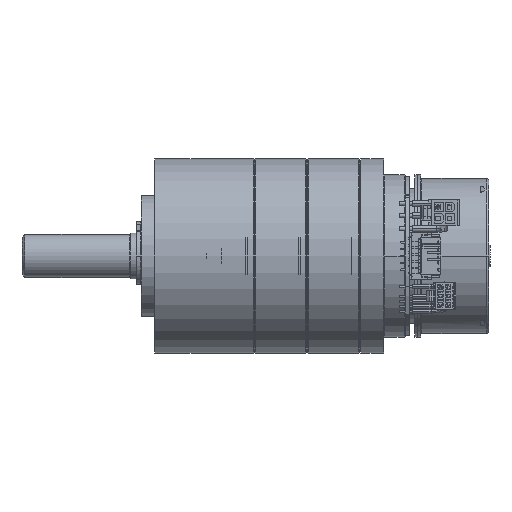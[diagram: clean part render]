
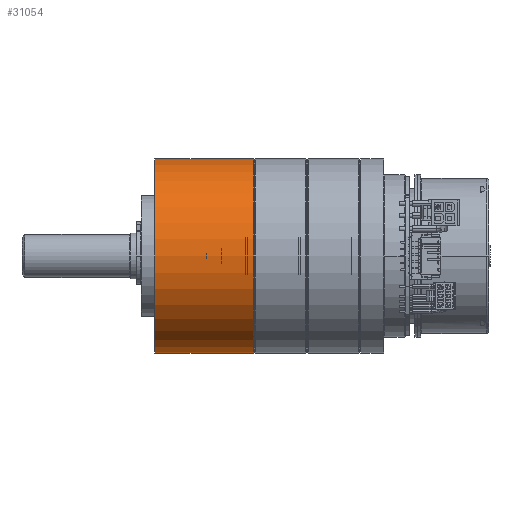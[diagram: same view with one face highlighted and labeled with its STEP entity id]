
A CAD part, front view. The second image highlights one B-rep face of the part: STEP entity #31054.
In plain terms, the highlighted cylindrical face has radius 36 mm (diameter 72 mm), a partial arc.
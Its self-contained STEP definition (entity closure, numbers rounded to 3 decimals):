
#1671 = EDGE_CURVE ( 'NONE', #48484, #43129, #30841, .T. ) ;
#2165 = VERTEX_POINT ( 'NONE', #111873 ) ;
#5742 = AXIS2_PLACEMENT_3D ( 'NONE', #95694, #75137, #58216 ) ;
#7003 = VERTEX_POINT ( 'NONE', #32561 ) ;
#8339 = FACE_OUTER_BOUND ( 'NONE', #102475, .T. ) ;
#17961 = CARTESIAN_POINT ( 'NONE',  ( -5.08, 0., 0. ) ) ;
#22089 = AXIS2_PLACEMENT_3D ( 'NONE', #17961, #64092, #119685 ) ;
#23118 = CIRCLE ( 'NONE', #5742, 36. ) ;
#27384 = CARTESIAN_POINT ( 'NONE',  ( -5.08, 0., -36. ) ) ;
#28552 = EDGE_CURVE ( 'NONE', #2165, #43129, #80279, .T. ) ;
#28958 = VECTOR ( 'NONE', #117188, 1000. ) ;
#29161 = LINE ( 'NONE', #27384, #41274 ) ;
#30841 = CIRCLE ( 'NONE', #98496, 36. ) ;
#31054 = ADVANCED_FACE ( 'NONE', ( #8339 ), #119111, .T. ) ;
#32561 = CARTESIAN_POINT ( 'NONE',  ( -3., 0., -36. ) ) ;
#33689 = CARTESIAN_POINT ( 'NONE',  ( 33.6, 0., 36. ) ) ;
#33698 = CARTESIAN_POINT ( 'NONE',  ( -5.08, 0., 36. ) ) ;
#41274 = VECTOR ( 'NONE', #92176, 1000. ) ;
#43129 = VERTEX_POINT ( 'NONE', #33689 ) ;
#48484 = VERTEX_POINT ( 'NONE', #70785 ) ;
#53735 = EDGE_CURVE ( 'NONE', #2165, #7003, #23118, .T. ) ;
#58216 = DIRECTION ( 'NONE',  ( 0., 0., -1. ) ) ;
#63057 = DIRECTION ( 'NONE',  ( 0., 0., -1. ) ) ;
#64092 = DIRECTION ( 'NONE',  ( 1., 0., 0. ) ) ;
#65052 = ORIENTED_EDGE ( 'NONE', *, *, #53735, .T. ) ;
#70785 = CARTESIAN_POINT ( 'NONE',  ( 33.6, 0., -36. ) ) ;
#70932 = DIRECTION ( 'NONE',  ( -1., 0., 0. ) ) ;
#72047 = ORIENTED_EDGE ( 'NONE', *, *, #1671, .T. ) ;
#75137 = DIRECTION ( 'NONE',  ( 1., 0., 0. ) ) ;
#80279 = LINE ( 'NONE', #33698, #28958 ) ;
#87276 = EDGE_CURVE ( 'NONE', #7003, #48484, #29161, .T. ) ;
#92176 = DIRECTION ( 'NONE',  ( 1., 0., 0. ) ) ;
#95694 = CARTESIAN_POINT ( 'NONE',  ( -3., 0., 0. ) ) ;
#98496 = AXIS2_PLACEMENT_3D ( 'NONE', #98796, #70932, #63057 ) ;
#98796 = CARTESIAN_POINT ( 'NONE',  ( 33.6, 0., 0. ) ) ;
#100985 = ORIENTED_EDGE ( 'NONE', *, *, #87276, .T. ) ;
#102475 = EDGE_LOOP ( 'NONE', ( #114615, #65052, #100985, #72047 ) ) ;
#111873 = CARTESIAN_POINT ( 'NONE',  ( -3., 0., 36. ) ) ;
#114615 = ORIENTED_EDGE ( 'NONE', *, *, #28552, .F. ) ;
#117188 = DIRECTION ( 'NONE',  ( 1., 0., 0. ) ) ;
#119111 = CYLINDRICAL_SURFACE ( 'NONE', #22089, 36. ) ;
#119685 = DIRECTION ( 'NONE',  ( 0., 0., -1. ) ) ;
